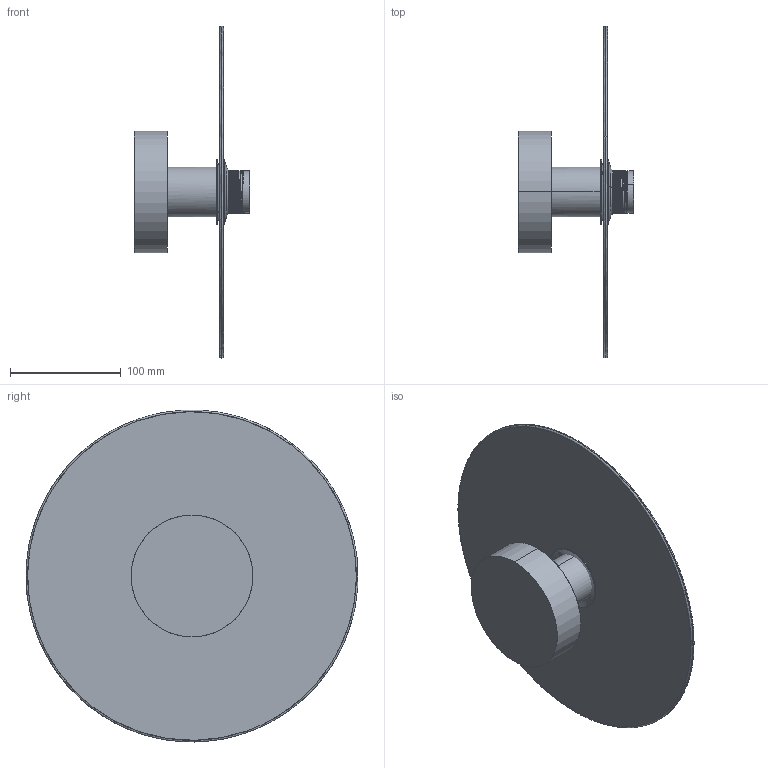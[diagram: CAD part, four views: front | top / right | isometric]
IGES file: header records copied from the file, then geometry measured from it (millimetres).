
Start section: SolidWorks IGES file using analytic representation for surfaces
Global section: file name: C:\Users\adrian\Desktop\MODELADOS USA\ALBA\A1096-35.IGS; native system: SolidWorks 2023; preprocessor: SolidWorks 2023; author: adrian; date: 260609.123241; units: inch
Bounding box: 104.34 x 299.84 x 299.96 mm (x, y, z)
Surface area: 208898.4 mm2 (no closed solid volume)
Topology: 0 solids, 0 shells, 209 faces, 5298 edges, 5298 vertices
Faces by surface type: bspline 207, revolution 2
